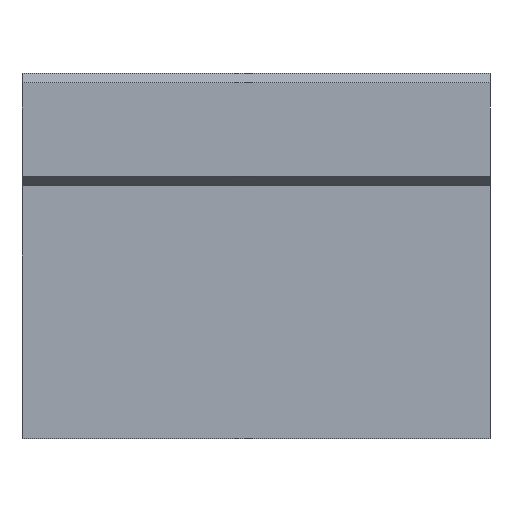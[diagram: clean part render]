
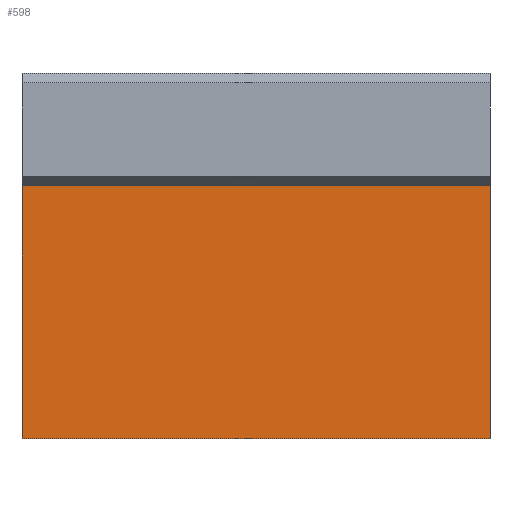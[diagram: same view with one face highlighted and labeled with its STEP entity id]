
A CAD part, front view. The second image highlights one B-rep face of the part: STEP entity #598.
In plain terms, the highlighted planar face has unit normal (0, -1, 0).
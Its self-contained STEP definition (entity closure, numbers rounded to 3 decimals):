
#47=LINE('',#941,#107);
#60=LINE('',#964,#120);
#61=LINE('',#967,#121);
#62=LINE('',#968,#122);
#107=VECTOR('',#774,27.);
#120=VECTOR('',#789,50.);
#121=VECTOR('',#792,27.);
#122=VECTOR('',#793,50.);
#150=PLANE('',#654);
#198=FACE_OUTER_BOUND('',#246,.T.);
#246=EDGE_LOOP('',(#501,#502,#503,#504));
#313=VERTEX_POINT('',#938);
#314=VERTEX_POINT('',#940);
#323=VERTEX_POINT('',#962);
#324=VERTEX_POINT('',#966);
#376=EDGE_CURVE('',#314,#313,#47,.T.);
#389=EDGE_CURVE('',#313,#323,#60,.T.);
#390=EDGE_CURVE('',#324,#323,#61,.T.);
#391=EDGE_CURVE('',#314,#324,#62,.T.);
#501=ORIENTED_EDGE('',*,*,#376,.T.);
#502=ORIENTED_EDGE('',*,*,#389,.T.);
#503=ORIENTED_EDGE('',*,*,#390,.F.);
#504=ORIENTED_EDGE('',*,*,#391,.F.);
#598=ADVANCED_FACE('',(#198),#150,.T.);
#654=AXIS2_PLACEMENT_3D('',#965,#790,#791);
#774=DIRECTION('',(0.,0.,-1.));
#789=DIRECTION('',(1.,0.,0.));
#790=DIRECTION('center_axis',(0.,-1.,0.));
#791=DIRECTION('ref_axis',(0.,0.,-1.));
#792=DIRECTION('',(0.,0.,-1.));
#793=DIRECTION('',(1.,0.,0.));
#938=CARTESIAN_POINT('',(0.,-22.5,0.));
#940=CARTESIAN_POINT('',(0.,-22.5,27.));
#941=CARTESIAN_POINT('',(0.,-22.5,27.));
#962=CARTESIAN_POINT('',(50.,-22.5,0.));
#964=CARTESIAN_POINT('',(0.,-22.5,0.));
#965=CARTESIAN_POINT('Origin',(0.,-22.5,27.));
#966=CARTESIAN_POINT('',(50.,-22.5,27.));
#967=CARTESIAN_POINT('',(50.,-22.5,27.));
#968=CARTESIAN_POINT('',(0.,-22.5,27.));
